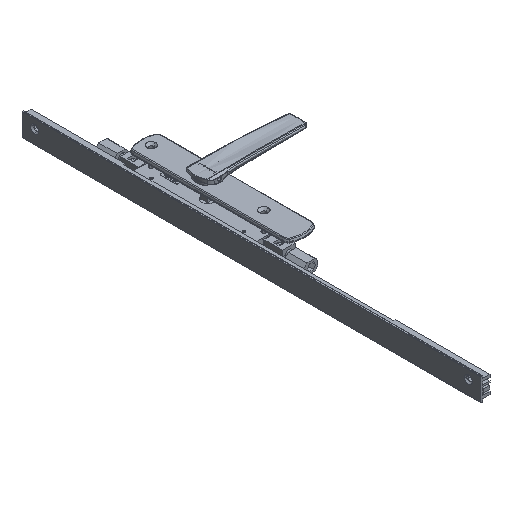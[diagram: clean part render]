
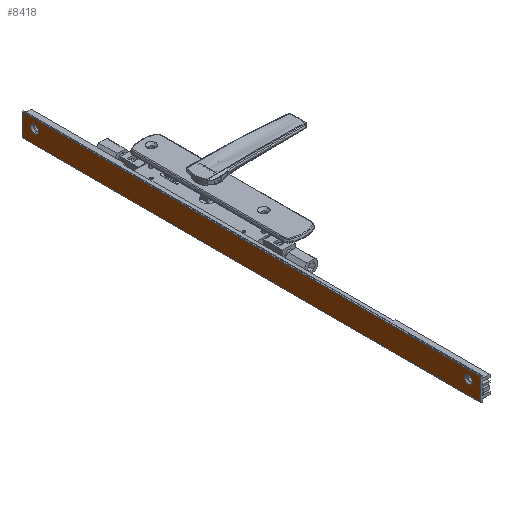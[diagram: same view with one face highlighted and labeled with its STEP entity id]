
A CAD part, isometric view. The second image highlights one B-rep face of the part: STEP entity #8418.
In plain terms, the highlighted planar face has unit normal (-1, 0, 0) as drawn and (0, 1, 0) by its records, which use the part's own axes.
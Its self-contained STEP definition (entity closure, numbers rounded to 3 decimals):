
#80 = LINE ( 'NONE', #26644, #3392 ) ;
#347 = CARTESIAN_POINT ( 'NONE',  ( 6.911, 12.4, 15. ) ) ;
#1102 = ORIENTED_EDGE ( 'NONE', *, *, #5167, .F. ) ;
#1225 = DIRECTION ( 'NONE',  ( -1., 0., 0. ) ) ;
#1621 = ORIENTED_EDGE ( 'NONE', *, *, #18711, .F. ) ;
#2321 = CARTESIAN_POINT ( 'NONE',  ( 16.689, 12.4, 15. ) ) ;
#2415 = CARTESIAN_POINT ( 'NONE',  ( 11.8, 12.4, 529. ) ) ;
#2741 = DIRECTION ( 'NONE',  ( 1., 0., 0. ) ) ;
#2868 = EDGE_CURVE ( 'NONE', #19427, #28895, #28490, .T. ) ;
#3392 = VECTOR ( 'NONE', #2741, 1000. ) ;
#3399 = CARTESIAN_POINT ( 'NONE',  ( 11.8, 12.4, 533.889 ) ) ;
#4041 = DIRECTION ( 'NONE',  ( 0., -1., 0. ) ) ;
#5117 = DIRECTION ( 'NONE',  ( 0., 0., 1. ) ) ;
#5167 = EDGE_CURVE ( 'NONE', #28895, #16482, #6132, .T. ) ;
#5455 = CARTESIAN_POINT ( 'NONE',  ( 11.8, 12.4, 524.111 ) ) ;
#6132 = LINE ( 'NONE', #30023, #19086 ) ;
#8064 = CARTESIAN_POINT ( 'NONE',  ( -4.4, 12.4, 544. ) ) ;
#8418 = ADVANCED_FACE ( 'NONE', ( #16617, #8631, #16042 ), #25698, .F. ) ;
#8631 = FACE_BOUND ( 'NONE', #15528, .T. ) ;
#8651 = CIRCLE ( 'NONE', #12704, 4.889 ) ;
#8717 = CARTESIAN_POINT ( 'NONE',  ( 11.8, 12.4, 15. ) ) ;
#9758 = CIRCLE ( 'NONE', #19843, 4.889 ) ;
#10845 = DIRECTION ( 'NONE',  ( 1., 0., 0. ) ) ;
#11288 = VERTEX_POINT ( 'NONE', #3399 ) ;
#11709 = CARTESIAN_POINT ( 'NONE',  ( 22., 12.4, 544. ) ) ;
#12372 = CARTESIAN_POINT ( 'NONE',  ( -4.4, 12.4, 544. ) ) ;
#12543 = CARTESIAN_POINT ( 'NONE',  ( -4.4, 12.4, 0. ) ) ;
#12704 = AXIS2_PLACEMENT_3D ( 'NONE', #19418, #17039, #29109 ) ;
#12828 = EDGE_CURVE ( 'NONE', #28021, #11288, #9758, .T. ) ;
#13127 = EDGE_CURVE ( 'NONE', #30888, #22084, #18838, .T. ) ;
#13358 = EDGE_LOOP ( 'NONE', ( #26367, #1102, #29535, #18093 ) ) ;
#13405 = EDGE_CURVE ( 'NONE', #16482, #28063, #24473, .T. ) ;
#13970 = EDGE_CURVE ( 'NONE', #11288, #28021, #24741, .T. ) ;
#14291 = DIRECTION ( 'NONE',  ( 0., 1., 0. ) ) ;
#14928 = CARTESIAN_POINT ( 'NONE',  ( 22., 12.4, 0. ) ) ;
#15528 = EDGE_LOOP ( 'NONE', ( #21680, #27436 ) ) ;
#16042 = FACE_BOUND ( 'NONE', #25324, .T. ) ;
#16191 = DIRECTION ( 'NONE',  ( 0., 0., 1. ) ) ;
#16482 = VERTEX_POINT ( 'NONE', #12372 ) ;
#16617 = FACE_OUTER_BOUND ( 'NONE', #13358, .T. ) ;
#16754 = CARTESIAN_POINT ( 'NONE',  ( 22., 12.4, 544. ) ) ;
#17039 = DIRECTION ( 'NONE',  ( 0., 1., 0. ) ) ;
#18093 = ORIENTED_EDGE ( 'NONE', *, *, #28002, .F. ) ;
#18351 = DIRECTION ( 'NONE',  ( 0., 1., 0. ) ) ;
#18459 = ORIENTED_EDGE ( 'NONE', *, *, #13127, .F. ) ;
#18711 = EDGE_CURVE ( 'NONE', #22084, #30888, #8651, .T. ) ;
#18838 = CIRCLE ( 'NONE', #29993, 4.889 ) ;
#19086 = VECTOR ( 'NONE', #1225, 1000. ) ;
#19418 = CARTESIAN_POINT ( 'NONE',  ( 11.8, 12.4, 15. ) ) ;
#19427 = VERTEX_POINT ( 'NONE', #14928 ) ;
#19843 = AXIS2_PLACEMENT_3D ( 'NONE', #2415, #24202, #5117 ) ;
#21680 = ORIENTED_EDGE ( 'NONE', *, *, #13970, .F. ) ;
#22084 = VERTEX_POINT ( 'NONE', #347 ) ;
#23378 = DIRECTION ( 'NONE',  ( 0., 0., 1. ) ) ;
#23385 = DIRECTION ( 'NONE',  ( -1., 0., 0. ) ) ;
#24202 = DIRECTION ( 'NONE',  ( 0., 1., 0. ) ) ;
#24406 = VECTOR ( 'NONE', #27044, 1000. ) ;
#24473 = LINE ( 'NONE', #8064, #24406 ) ;
#24741 = CIRCLE ( 'NONE', #28317, 4.889 ) ;
#25324 = EDGE_LOOP ( 'NONE', ( #1621, #18459 ) ) ;
#25698 = PLANE ( 'NONE',  #29035 ) ;
#26298 = CARTESIAN_POINT ( 'NONE',  ( 20.8, 12.4, 544. ) ) ;
#26367 = ORIENTED_EDGE ( 'NONE', *, *, #13405, .F. ) ;
#26644 = CARTESIAN_POINT ( 'NONE',  ( 20.8, 12.4, 0. ) ) ;
#27044 = DIRECTION ( 'NONE',  ( 0., 0., -1. ) ) ;
#27436 = ORIENTED_EDGE ( 'NONE', *, *, #12828, .F. ) ;
#28002 = EDGE_CURVE ( 'NONE', #28063, #19427, #80, .T. ) ;
#28021 = VERTEX_POINT ( 'NONE', #5455 ) ;
#28063 = VERTEX_POINT ( 'NONE', #12543 ) ;
#28251 = CARTESIAN_POINT ( 'NONE',  ( 11.8, 12.4, 529. ) ) ;
#28317 = AXIS2_PLACEMENT_3D ( 'NONE', #28251, #14291, #16191 ) ;
#28490 = LINE ( 'NONE', #11709, #30008 ) ;
#28895 = VERTEX_POINT ( 'NONE', #16754 ) ;
#29035 = AXIS2_PLACEMENT_3D ( 'NONE', #26298, #4041, #10845 ) ;
#29109 = DIRECTION ( 'NONE',  ( -1., 0., 0. ) ) ;
#29535 = ORIENTED_EDGE ( 'NONE', *, *, #2868, .F. ) ;
#29993 = AXIS2_PLACEMENT_3D ( 'NONE', #8717, #18351, #23385 ) ;
#30008 = VECTOR ( 'NONE', #23378, 1000. ) ;
#30023 = CARTESIAN_POINT ( 'NONE',  ( 20.8, 12.4, 544. ) ) ;
#30888 = VERTEX_POINT ( 'NONE', #2321 ) ;
